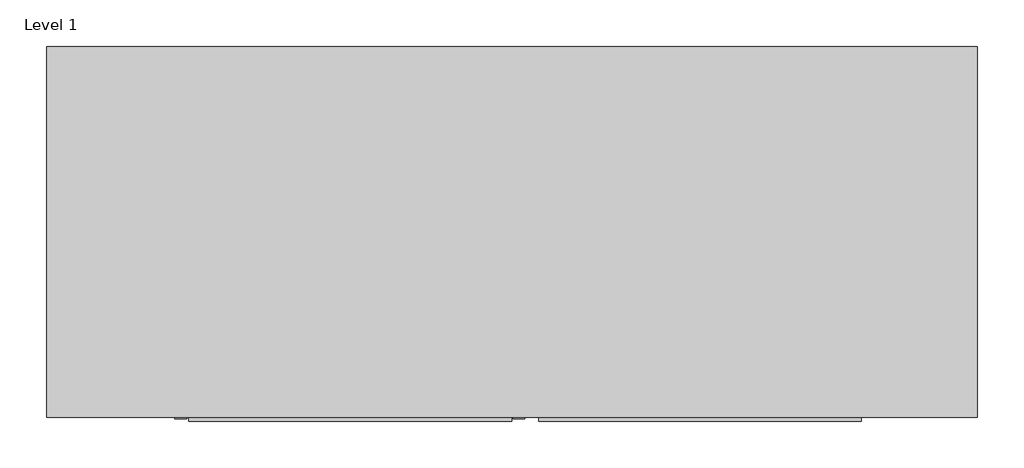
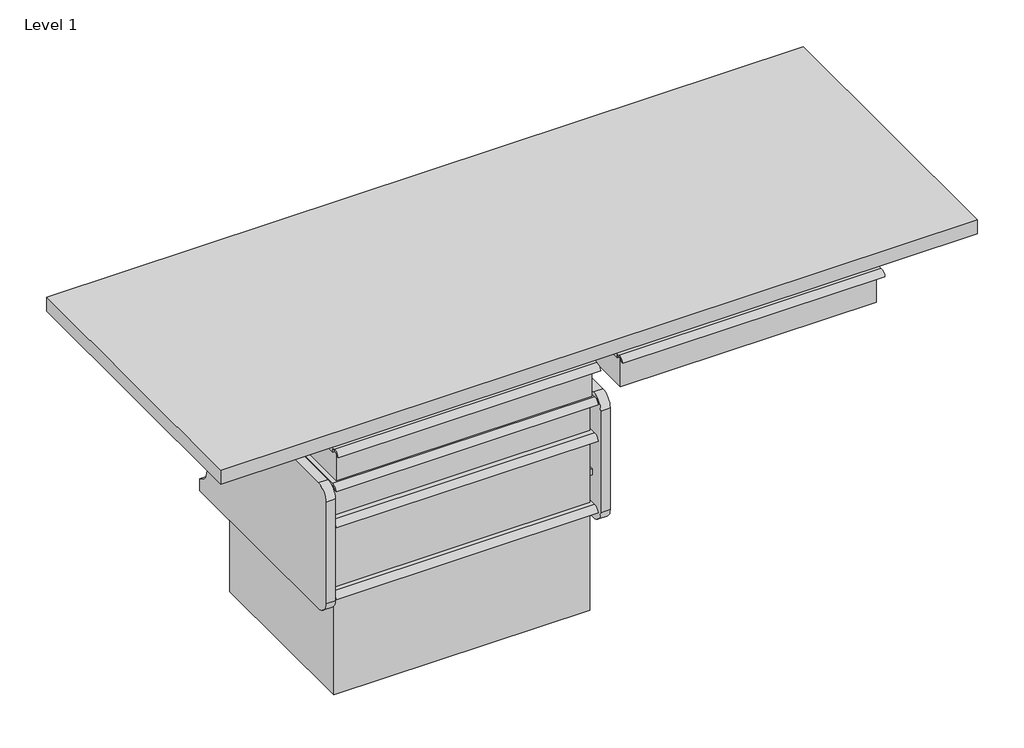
# One storey, incomplete: 7 furniture elements.
"""IFC4 building model written with IfcOpenShell, lengths in millimetres."""

from ifc_helpers import new_model, si_unit, origin, place, context, project, spatial, transform, mapped, element, save
from components import furniture_e68dc01e, a_3_71a075e6, a_3_21ecb1ea, b_6_b4610c64, c_9_dd4388d3, lam_24d_60w_0fc88a9e

model = new_model("IFC4")

# Units and contexts
model_context = context("Model", 3, world=origin())
ifc_project = project(units=[si_unit("LENGTHUNIT", "METRE", prefix="MILLI")], contexts=[model_context])

# Site, building, storey
site = spatial("IfcSite", under=ifc_project)
building = spatial("IfcBuilding", under=site)
storey = spatial("IfcBuildingStorey", under=building, Name="Level 1", Elevation=0.0)

# Furniture
placement = place(None, origin())
furniture_shape = furniture_e68dc01e(model_context)
element("IfcFurniture", 1, ObjectType="HermanMiller_CoStruc_CO205_CFrame : 10\"H x 17\"D x 22\"W", at=placement, inside=storey, context=model_context, shape_type="MappedRepresentation", body=[
    mapped(furniture_shape, transform((225.4451951, -247.8753397, 0.0), x_axis=(1.0, 0.0, 0.0), y_axis=(0.0, 1.0, 0.0), z_axis=(0.0, 0.0, 1.0))),
])
a_3_shape = a_3_71a075e6(model_context)
element("IfcFurniture", 2, ObjectType="HermanMiller_CoStruc_CO207_Drawer : A - 3", at=placement, inside=storey, context=model_context, shape_type="MappedRepresentation", body=[
    mapped(a_3_shape, transform((892.6080317, -413.61614, 0.0), x_axis=(1.0, 0.0, 0.0), y_axis=(0.0, 1.0, 0.0), z_axis=(0.0, 0.0, 1.0))),
])
element("IfcFurniture", 3, ObjectType="HermanMiller_CoStruc_CO207_Drawer : A - 3", at=placement, inside=storey, context=model_context, shape_type="MappedRepresentation", body=[
    mapped(a_3_shape, transform((321.1080317, -413.61614, 0.0), x_axis=(1.0, 0.0, 0.0), y_axis=(0.0, 1.0, 0.0), z_axis=(0.0, 0.0, 1.0))),
])
a_3_2_shape = a_3_21ecb1ea(model_context)
element("IfcFurniture", 4, ObjectType="HermanMiller_CoStruc_CO207_Drawer : A - 3", at=placement, inside=storey, context=model_context, shape_type="MappedRepresentation", body=[
    mapped(a_3_2_shape, transform((320.3155517, -407.26614, 0.0), x_axis=(1.0, 0.0, 0.0), y_axis=(0.0, 1.0, 0.0), z_axis=(0.0, 0.0, 1.0))),
])
b_6_shape = b_6_b4610c64(model_context)
element("IfcFurniture", 5, ObjectType="HermanMiller_CoStruc_CO207_Drawer : B - 6", at=placement, inside=storey, context=model_context, shape_type="MappedRepresentation", body=[
    mapped(b_6_shape, transform((320.3155517, -407.26614, 0.0), x_axis=(1.0, 0.0, 0.0), y_axis=(0.0, 1.0, 0.0), z_axis=(0.0, 0.0, 1.0))),
])
c_9_shape = c_9_dd4388d3(model_context)
element("IfcFurniture", 6, ObjectType="HermanMiller_CoStruc_CO207_Drawer : C - 9", at=placement, inside=storey, context=model_context, shape_type="MappedRepresentation", body=[
    mapped(c_9_shape, transform((320.3155517, -407.26614, 0.0), x_axis=(1.0, 0.0, 0.0), y_axis=(0.0, 1.0, 0.0), z_axis=(0.0, 0.0, 1.0))),
])
lam_24d_60w_shape = lam_24d_60w_0fc88a9e(model_context)
element("IfcFurniture", 7, ObjectType="HermanMiller_CoStruc_C4700_RectangularWorkTableSurface : Lam 24D 60W", at=placement, inside=storey, context=model_context, shape_type="MappedRepresentation", body=[
    mapped(lam_24d_60w_shape, transform((-25.7823292, 6.91388, 31.7265697), x_axis=(1.0, 0.0, 0.0), y_axis=(0.0, 1.0, 0.0), z_axis=(0.0, 0.0, 1.0))),
])

save(model, "model.ifc")
